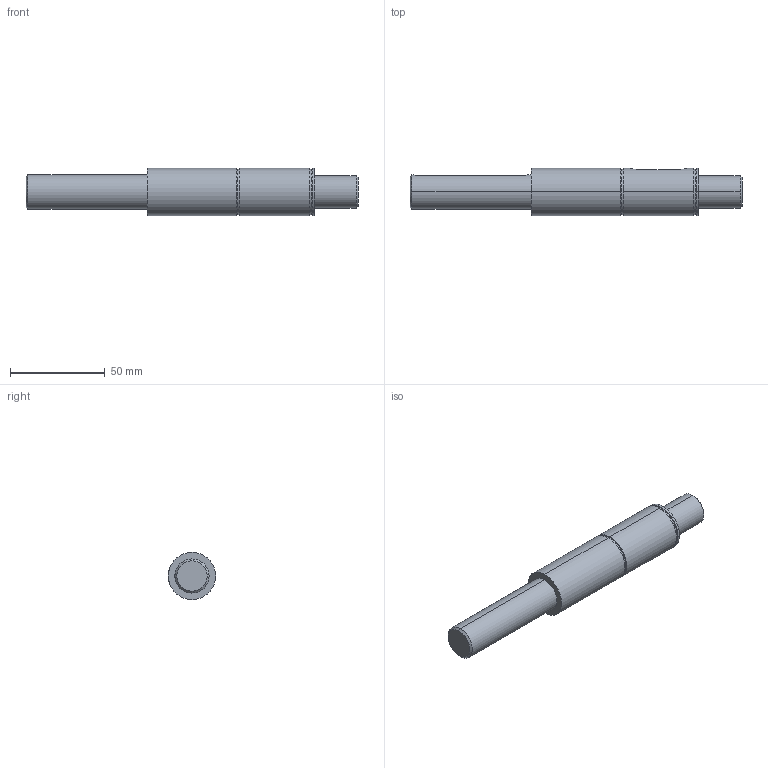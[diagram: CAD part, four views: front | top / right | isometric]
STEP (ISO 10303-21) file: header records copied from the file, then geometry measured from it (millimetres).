
FILE_DESCRIPTION (( 'STEP AP203' ), '1' );
FILE_NAME ('084.812.018.STEP', '2015-02-11T08:24:18', ( '' ), ( '' ), 'SwSTEP 2.0', 'SolidWorks 2012', '' );
FILE_SCHEMA (( 'CONFIG_CONTROL_DESIGN' ));
Length unit declared in the file: millimetre
Products named in the file (1): 084.812.018
Bounding box: 175 x 25 x 25 mm (x, y, z)
Volume: 62508.6 mm3; surface area: 13429.4 mm2
Topology: 1 solids, 1 shells, 44 faces, 90 edges, 56 vertices
Faces by surface type: cylinder 18, plane 14, torus 8, cone 4
Entity records: 1367 total; most frequent: CARTESIAN_POINT 319, DIRECTION 228, ORIENTED_EDGE 180, AXIS2_PLACEMENT_3D 97, EDGE_CURVE 90, VERTEX_POINT 56, CIRCLE 52, EDGE_LOOP 52
